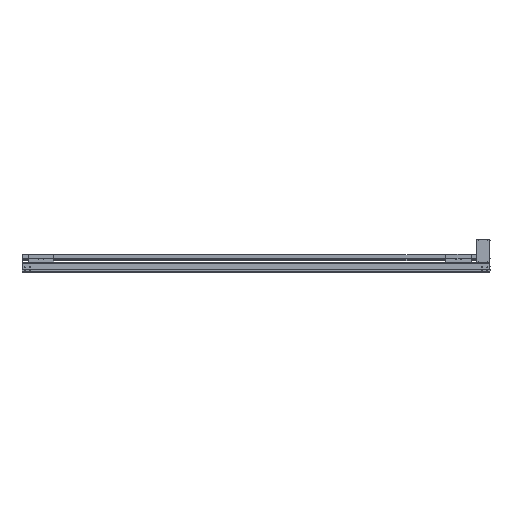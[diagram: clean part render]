
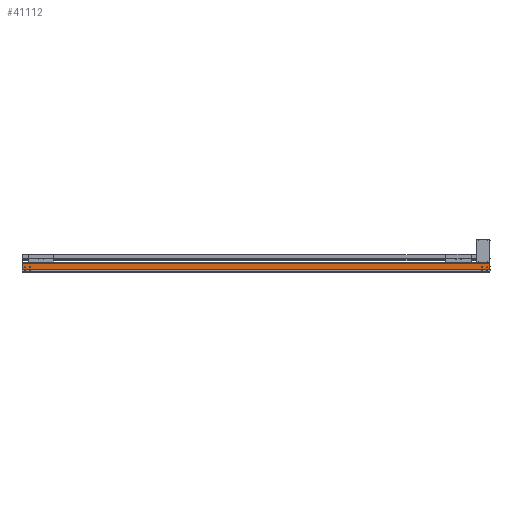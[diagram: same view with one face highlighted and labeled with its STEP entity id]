
A CAD part, top view. The second image highlights one B-rep face of the part: STEP entity #41112.
In plain terms, the highlighted planar face has unit normal (0, 0, 1).
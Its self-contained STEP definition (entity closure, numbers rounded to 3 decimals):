
#6172=DIRECTION('',(-1.,0.,0.));
#6173=VECTOR('',#6172,4648.5);
#6174=CARTESIAN_POINT('',(0.,93.5,107.));
#6175=LINE('',#6174,#6173);
#6194=CARTESIAN_POINT('',(0.,93.921,
107.));
#6196=CARTESIAN_POINT('',(0.,93.921,
107.));
#6197=CARTESIAN_POINT('',(0.,93.835,
107.));
#6198=CARTESIAN_POINT('',(0.,93.785,107.));
#6199=CARTESIAN_POINT('',(0.,93.581,107.));
#6200=CARTESIAN_POINT('',(0.,93.5,107.));
#6202=CARTESIAN_POINT('',(-4623.5,54.,107.));
#6203=DIRECTION('',(0.,0.,-1.));
#6204=DIRECTION('',(1.,0.,0.));
#6205=AXIS2_PLACEMENT_3D('',#6202,#6203,#6204);
#6207=CARTESIAN_POINT('',(-4623.5,54.,107.));
#6208=DIRECTION('',(0.,0.,-1.));
#6209=DIRECTION('',(-1.,0.,0.));
#6210=AXIS2_PLACEMENT_3D('',#6207,#6208,#6209);
#6212=CARTESIAN_POINT('',(-4573.5,54.,107.));
#6213=DIRECTION('',(0.,0.,-1.));
#6214=DIRECTION('',(1.,0.,0.));
#6215=AXIS2_PLACEMENT_3D('',#6212,#6213,#6214);
#6217=CARTESIAN_POINT('',(-4573.5,54.,107.));
#6218=DIRECTION('',(0.,0.,-1.));
#6219=DIRECTION('',(-1.,0.,0.));
#6220=AXIS2_PLACEMENT_3D('',#6217,#6218,#6219);
#6222=CARTESIAN_POINT('',(-23.5,54.,107.));
#6223=DIRECTION('',(0.,0.,-1.));
#6224=DIRECTION('',(1.,0.,0.));
#6225=AXIS2_PLACEMENT_3D('',#6222,#6223,#6224);
#6227=CARTESIAN_POINT('',(-23.5,54.,107.));
#6228=DIRECTION('',(0.,0.,-1.));
#6229=DIRECTION('',(-1.,0.,0.));
#6230=AXIS2_PLACEMENT_3D('',#6227,#6228,#6229);
#6232=CARTESIAN_POINT('',(-73.5,54.,107.));
#6233=DIRECTION('',(0.,0.,-1.));
#6234=DIRECTION('',(1.,0.,0.));
#6235=AXIS2_PLACEMENT_3D('',#6232,#6233,#6234);
#6237=CARTESIAN_POINT('',(-73.5,54.,107.));
#6238=DIRECTION('',(0.,0.,-1.));
#6239=DIRECTION('',(-1.,0.,0.));
#6240=AXIS2_PLACEMENT_3D('',#6237,#6238,#6239);
#6242=DIRECTION('',(0.,-1.,0.));
#6243=VECTOR('',#6242,2.55);
#6244=CARTESIAN_POINT('',(-4646.5,34.65,107.));
#6245=LINE('',#6244,#6243);
#6246=DIRECTION('',(0.,-1.,0.));
#6247=VECTOR('',#6246,58.85);
#6248=CARTESIAN_POINT('',(-4648.5,93.5,107.));
#6249=LINE('',#6248,#6247);
#6250=DIRECTION('',(0.,1.,0.));
#6251=VECTOR('',#6250,58.35);
#6252=CARTESIAN_POINT('',(1.5,35.65,107.));
#6253=LINE('',#6252,#6251);
#6254=DIRECTION('',(0.,1.,0.));
#6255=VECTOR('',#6254,3.55);
#6256=CARTESIAN_POINT('',(0.,32.1,107.));
#6257=LINE('',#6256,#6255);
#6258=DIRECTION('',(1.,0.,0.));
#6259=VECTOR('',#6258,4646.5);
#6260=CARTESIAN_POINT('',(-4646.5,32.1,107.));
#6261=LINE('',#6260,#6259);
#6370=DIRECTION('',(1.,0.,0.));
#6371=VECTOR('',#6370,2.);
#6372=CARTESIAN_POINT('',(-4648.5,34.65,107.));
#6373=LINE('',#6372,#6371);
#6398=DIRECTION('',(-0.999,-0.053,0.));
#6399=VECTOR('',#6398,1.502);
#6400=CARTESIAN_POINT('',(1.5,94.,107.));
#6401=LINE('',#6400,#6399);
#12149=DIRECTION('',(1.,0.,0.));
#12150=VECTOR('',#12149,1.5);
#12151=CARTESIAN_POINT('',(0.,35.65,107.));
#12152=LINE('',#12151,#12150);
#26425=CARTESIAN_POINT('',(1.5,94.,107.));
#26426=VERTEX_POINT('',#26425);
#26427=CARTESIAN_POINT('',(1.5,35.65,107.));
#26428=VERTEX_POINT('',#26427);
#26501=CARTESIAN_POINT('',(-4648.5,34.65,107.));
#26502=VERTEX_POINT('',#26501);
#26503=CARTESIAN_POINT('',(-4648.5,93.5,107.));
#26504=VERTEX_POINT('',#26503);
#27013=CARTESIAN_POINT('',(-4646.5,32.1,107.));
#27014=VERTEX_POINT('',#27013);
#27064=CARTESIAN_POINT('',(0.,32.1,107.));
#27066=VERTEX_POINT('',#27064);
#27999=CARTESIAN_POINT('',(-4621.,54.,107.));
#28000=CARTESIAN_POINT('',(-4626.,54.,107.));
#28001=VERTEX_POINT('',#27999);
#28002=VERTEX_POINT('',#28000);
#28003=CARTESIAN_POINT('',(-4571.,54.,107.));
#28004=CARTESIAN_POINT('',(-4576.,54.,107.));
#28005=VERTEX_POINT('',#28003);
#28006=VERTEX_POINT('',#28004);
#28007=CARTESIAN_POINT('',(-21.,54.,107.));
#28008=CARTESIAN_POINT('',(-26.,54.,107.));
#28009=VERTEX_POINT('',#28007);
#28010=VERTEX_POINT('',#28008);
#28011=CARTESIAN_POINT('',(-71.,54.,107.));
#28012=CARTESIAN_POINT('',(-76.,54.,107.));
#28013=VERTEX_POINT('',#28011);
#28014=VERTEX_POINT('',#28012);
#31217=CARTESIAN_POINT('',(0.,35.65,107.));
#31218=VERTEX_POINT('',#31217);
#31349=VERTEX_POINT('',#6194);
#31350=VERTEX_POINT('',#6200);
#31781=CARTESIAN_POINT('',(-4646.5,34.65,107.));
#31782=VERTEX_POINT('',#31781);
#41067=CARTESIAN_POINT('',(-2323.25,62.8,107.));
#41068=DIRECTION('',(0.,0.,1.));
#41069=DIRECTION('',(0.,-1.,0.));
#41070=AXIS2_PLACEMENT_3D('',#41067,#41068,#41069);
#41071=PLANE('',#41070);
#41072=ORIENTED_EDGE('',*,*,#34649,.F.);
#41074=ORIENTED_EDGE('',*,*,#41073,.F.);
#41075=ORIENTED_EDGE('',*,*,#38186,.F.);
#41076=ORIENTED_EDGE('',*,*,#41054,.F.);
#41077=ORIENTED_EDGE('',*,*,#41062,.F.);
#41079=ORIENTED_EDGE('',*,*,#41078,.F.);
#41080=ORIENTED_EDGE('',*,*,#32739,.F.);
#41082=ORIENTED_EDGE('',*,*,#41081,.F.);
#41083=ORIENTED_EDGE('',*,*,#33062,.F.);
#41085=ORIENTED_EDGE('',*,*,#41084,.F.);
#41086=EDGE_LOOP('',(#41072,#41074,#41075,#41076,#41077,#41079,#41080,#41082,
#41083,#41085));
#41087=FACE_OUTER_BOUND('',#41086,.F.);
#41089=ORIENTED_EDGE('',*,*,#41088,.F.);
#41091=ORIENTED_EDGE('',*,*,#41090,.F.);
#41092=EDGE_LOOP('',(#41089,#41091));
#41093=FACE_BOUND('',#41092,.F.);
#41095=ORIENTED_EDGE('',*,*,#41094,.F.);
#41097=ORIENTED_EDGE('',*,*,#41096,.F.);
#41098=EDGE_LOOP('',(#41095,#41097));
#41099=FACE_BOUND('',#41098,.F.);
#41101=ORIENTED_EDGE('',*,*,#41100,.F.);
#41103=ORIENTED_EDGE('',*,*,#41102,.F.);
#41104=EDGE_LOOP('',(#41101,#41103));
#41105=FACE_BOUND('',#41104,.F.);
#41107=ORIENTED_EDGE('',*,*,#41106,.F.);
#41109=ORIENTED_EDGE('',*,*,#41108,.F.);
#41110=EDGE_LOOP('',(#41107,#41109));
#41111=FACE_BOUND('',#41110,.F.);
#41112=ADVANCED_FACE('',(#41087,#41093,#41099,#41105,#41111),#41071,.T.);
#6201=B_SPLINE_CURVE_WITH_KNOTS('',3,(#6196,#6197,#6198,#6199,#6200),
.UNSPECIFIED.,.T.,.F.,(4,1,4),(0.,0.5,1.),.UNSPECIFIED.);
#6206=CIRCLE('',#6205,2.5);
#6211=CIRCLE('',#6210,2.5);
#6216=CIRCLE('',#6215,2.5);
#6221=CIRCLE('',#6220,2.5);
#6226=CIRCLE('',#6225,2.5);
#6231=CIRCLE('',#6230,2.5);
#6236=CIRCLE('',#6235,2.5);
#6241=CIRCLE('',#6240,2.5);
#32739=EDGE_CURVE('',#26428,#26426,#6253,.T.);
#33062=EDGE_CURVE('',#27066,#31218,#6257,.T.);
#34649=EDGE_CURVE('',#31782,#27014,#6245,.T.);
#38186=EDGE_CURVE('',#26504,#26502,#6249,.T.);
#41054=EDGE_CURVE('',#31350,#26504,#6175,.T.);
#41062=EDGE_CURVE('',#31349,#31350,#6201,.T.);
#41073=EDGE_CURVE('',#26502,#31782,#6373,.T.);
#41078=EDGE_CURVE('',#26426,#31349,#6401,.T.);
#41081=EDGE_CURVE('',#31218,#26428,#12152,.T.);
#41084=EDGE_CURVE('',#27014,#27066,#6261,.T.);
#41088=EDGE_CURVE('',#28005,#28006,#6216,.T.);
#41090=EDGE_CURVE('',#28006,#28005,#6221,.T.);
#41094=EDGE_CURVE('',#28009,#28010,#6226,.T.);
#41096=EDGE_CURVE('',#28010,#28009,#6231,.T.);
#41100=EDGE_CURVE('',#28013,#28014,#6236,.T.);
#41102=EDGE_CURVE('',#28014,#28013,#6241,.T.);
#41106=EDGE_CURVE('',#28001,#28002,#6206,.T.);
#41108=EDGE_CURVE('',#28002,#28001,#6211,.T.);
